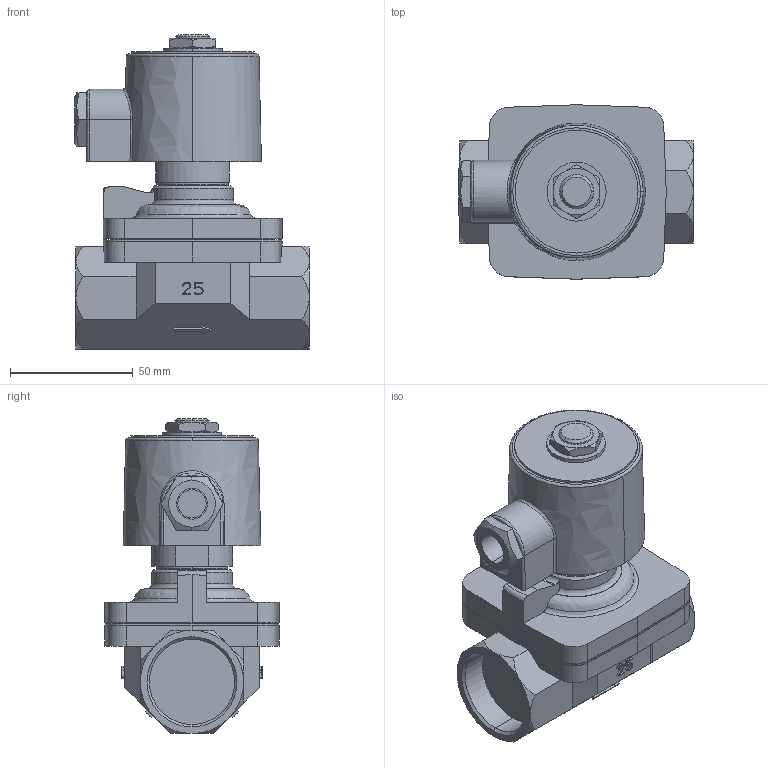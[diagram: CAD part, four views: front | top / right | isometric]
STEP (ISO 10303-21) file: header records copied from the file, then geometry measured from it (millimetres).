
FILE_DESCRIPTION( (''), '2;1');
FILE_NAME ('PC1056.13084.DP-200(1B)_6449.stp','2024-07-08T13:33:16',(''),(''),'spGate 19.8.4 (****-****-****-****)','','');
FILE_SCHEMA (('AUTOMOTIVE_DESIGN'));
Length unit declared in the file: millimetre
Products named in the file (5): Assembly; DP-200(1B)本体; DP200パイプ1Ｂ以下; ACコイル10A; コイル六角ナット座金
Assembly tree (4 placements, depth 2):
  Assembly
    DP-200(1B)本体
    DP200パイプ1Ｂ以下
    ACコイル10A
    コイル六角ナット座金
Bounding box: 95.5 x 71 x 128.2 mm (x, y, z)
Volume: 356862.8 mm3; surface area: 60442.1 mm2
Topology: 4 solids, 4 shells, 313 faces, 749 edges, 466 vertices
Faces by surface type: plane 139, bspline 98, cylinder 76
Entity records: 17758 total; most frequent: CARTESIAN_POINT 5032, ORIENTED_EDGE 1498, DIRECTION 1171, COLOUR_RGB 1066, PRESENTATION_STYLE_ASSIGNMENT 1066, STYLED_ITEM 1066, EDGE_CURVE 749, DRAUGHTING_PRE_DEFINED_CURVE_FONT 749
